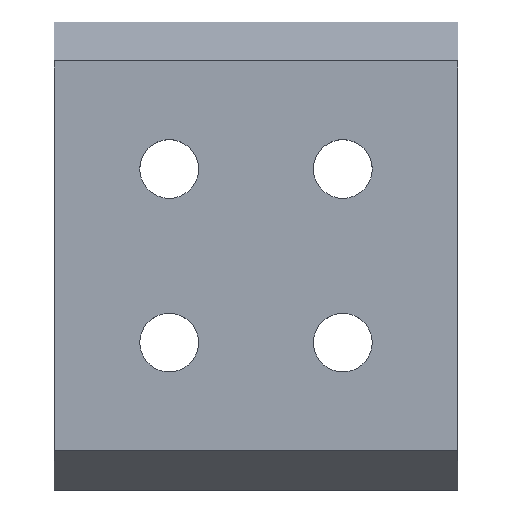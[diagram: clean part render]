
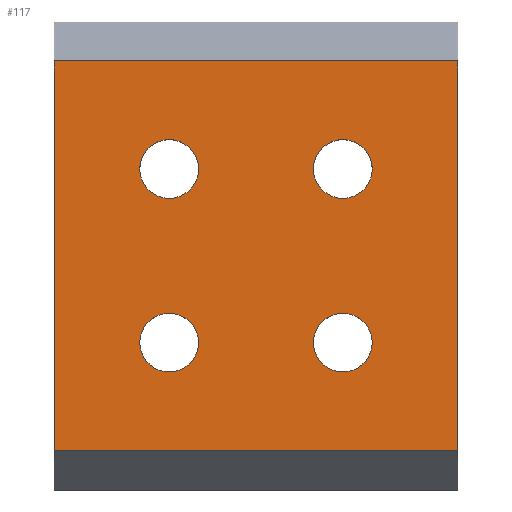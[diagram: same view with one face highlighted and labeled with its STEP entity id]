
A CAD part, top view. The second image highlights one B-rep face of the part: STEP entity #117.
In plain terms, the highlighted planar face has unit normal (0, 0, 1).
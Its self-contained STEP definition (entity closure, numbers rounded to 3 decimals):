
#43=PLANE('',#404);
#59=LINE('',#547,#83);
#69=LINE('',#568,#93);
#78=LINE('',#593,#102);
#79=LINE('',#595,#103);
#83=VECTOR('',#446,1.);
#93=VECTOR('',#460,1.);
#102=VECTOR('',#487,1.);
#103=VECTOR('',#490,1.);
#117=ADVANCED_FACE('',(#147,#148,#149,#150,#151),#43,.T.);
#147=FACE_BOUND('',#189,.T.);
#148=FACE_BOUND('',#190,.T.);
#149=FACE_BOUND('',#191,.T.);
#150=FACE_BOUND('',#192,.T.);
#151=FACE_BOUND('',#193,.T.);
#189=EDGE_LOOP('',(#266));
#190=EDGE_LOOP('',(#267));
#191=EDGE_LOOP('',(#268));
#192=EDGE_LOOP('',(#269));
#193=EDGE_LOOP('',(#270,#271,#272,#273));
#266=ORIENTED_EDGE('',*,*,#326,.F.);
#267=ORIENTED_EDGE('',*,*,#324,.F.);
#268=ORIENTED_EDGE('',*,*,#322,.F.);
#269=ORIENTED_EDGE('',*,*,#328,.F.);
#270=ORIENTED_EDGE('',*,*,#333,.T.);
#271=ORIENTED_EDGE('',*,*,#356,.T.);
#272=ORIENTED_EDGE('',*,*,#343,.T.);
#273=ORIENTED_EDGE('',*,*,#357,.T.);
#290=VERTEX_POINT('',#521);
#292=VERTEX_POINT('',#526);
#294=VERTEX_POINT('',#531);
#296=VERTEX_POINT('',#536);
#301=VERTEX_POINT('',#546);
#302=VERTEX_POINT('',#548);
#310=VERTEX_POINT('',#567);
#311=VERTEX_POINT('',#569);
#322=EDGE_CURVE('',#290,#290,#362,.T.);
#324=EDGE_CURVE('',#292,#292,#364,.T.);
#326=EDGE_CURVE('',#294,#294,#366,.T.);
#328=EDGE_CURVE('',#296,#296,#368,.T.);
#333=EDGE_CURVE('',#302,#301,#59,.T.);
#343=EDGE_CURVE('',#311,#310,#69,.T.);
#356=EDGE_CURVE('',#301,#311,#78,.T.);
#357=EDGE_CURVE('',#310,#302,#79,.T.);
#362=CIRCLE('',#379,3.);
#364=CIRCLE('',#382,3.);
#366=CIRCLE('',#385,3.);
#368=CIRCLE('',#388,3.);
#379=AXIS2_PLACEMENT_3D('',#520,#419,#420);
#382=AXIS2_PLACEMENT_3D('',#525,#425,#426);
#385=AXIS2_PLACEMENT_3D('',#530,#431,#432);
#388=AXIS2_PLACEMENT_3D('',#535,#437,#438);
#404=AXIS2_PLACEMENT_3D('',#597,#493,#494);
#419=DIRECTION('',(0.,0.,1.));
#420=DIRECTION('',(1.,0.,0.));
#425=DIRECTION('',(0.,0.,1.));
#426=DIRECTION('',(1.,0.,0.));
#431=DIRECTION('',(0.,0.,1.));
#432=DIRECTION('',(1.,0.,0.));
#437=DIRECTION('',(0.,0.,1.));
#438=DIRECTION('',(1.,0.,0.));
#446=DIRECTION('',(0.,-1.,0.));
#460=DIRECTION('',(0.,1.,0.));
#487=DIRECTION('',(1.,0.,0.));
#490=DIRECTION('',(-1.,0.,0.));
#493=DIRECTION('',(0.,0.,1.));
#494=DIRECTION('',(1.,0.,0.));
#520=CARTESIAN_POINT('',(-8.867,-8.867,11.7));
#521=CARTESIAN_POINT('',(-5.867,-8.867,11.7));
#525=CARTESIAN_POINT('',(-8.867,8.867,11.7));
#526=CARTESIAN_POINT('',(-5.867,8.867,11.7));
#530=CARTESIAN_POINT('',(8.867,8.867,11.7));
#531=CARTESIAN_POINT('',(11.867,8.867,11.7));
#535=CARTESIAN_POINT('',(8.867,-8.867,11.7));
#536=CARTESIAN_POINT('',(11.867,-8.867,11.7));
#546=CARTESIAN_POINT('',(-20.625,-19.9,11.7));
#547=CARTESIAN_POINT('',(-20.625,19.9,11.7));
#548=CARTESIAN_POINT('',(-20.625,19.9,11.7));
#567=CARTESIAN_POINT('',(20.625,19.9,11.7));
#568=CARTESIAN_POINT('',(20.625,-19.9,11.7));
#569=CARTESIAN_POINT('',(20.625,-19.9,11.7));
#593=CARTESIAN_POINT('',(-20.625,-19.9,11.7));
#595=CARTESIAN_POINT('',(20.625,19.9,11.7));
#597=CARTESIAN_POINT('',(0.,0.,11.7));
